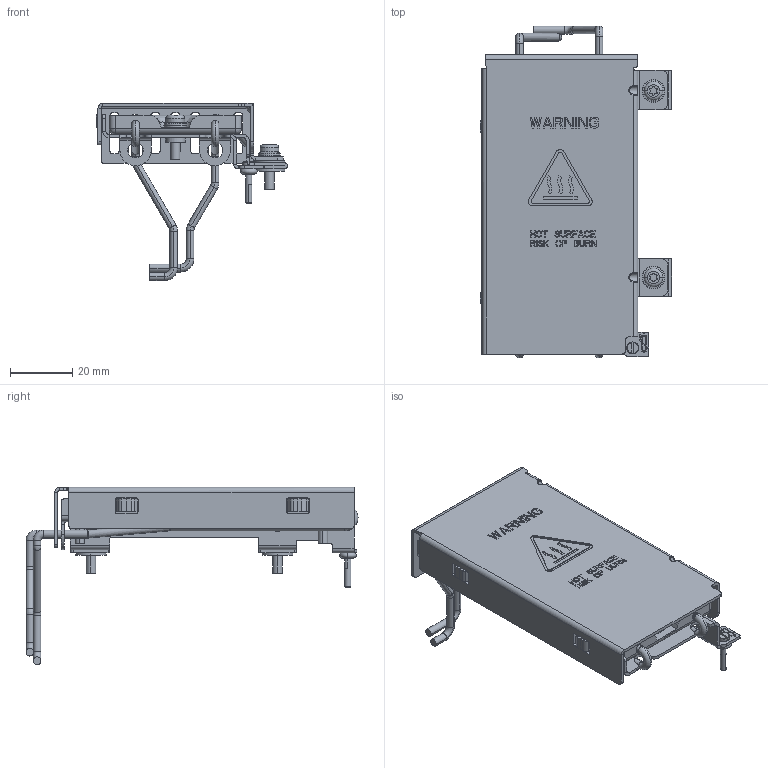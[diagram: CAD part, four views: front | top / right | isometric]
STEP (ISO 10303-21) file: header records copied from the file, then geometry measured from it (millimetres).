
FILE_DESCRIPTION((''),'2;1');
FILE_NAME('9500-1049_COM_RR_EXT__SW0002','2022-04-12T16:11:14',('kholpr01'),(''),'CREO PARAMETRIC BY PTC INC, 2018190','CREO PARAMETRIC BY PTC INC, 2018190','');
FILE_SCHEMA(('CONFIG_CONTROL_DESIGN'));
Length unit declared in the file: millimetre
Products named in the file (1): 9500-1049_COM_RR_EXT__SW0002
Bounding box: 61.28 x 106.5 x 56.87 mm (x, y, z)
Volume: 38795.3 mm3; surface area: 35521.7 mm2
Topology: 1 solids, 1 shells, 1542 faces, 4146 edges, 2661 vertices
Faces by surface type: plane 1066, cylinder 377, torus 38, cone 30, bspline 27, sphere 4
Entity records: 51286 total; most frequent: CARTESIAN_POINT 12083, ORIENTED_EDGE 8292, DIRECTION 7965, EDGE_CURVE 4146, VECTOR 3117, LINE 3117, VERTEX_POINT 2661, AXIS2_PLACEMENT_3D 2424
